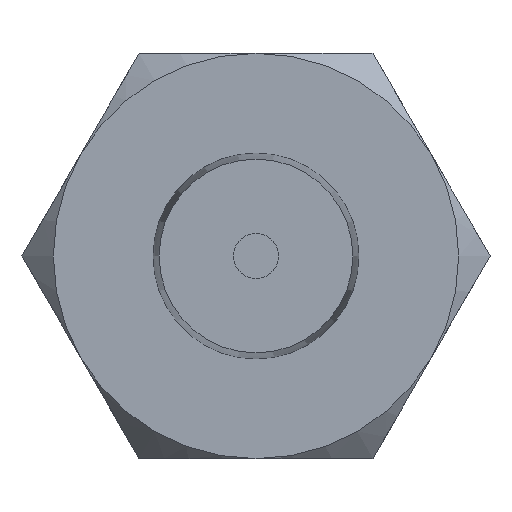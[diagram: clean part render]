
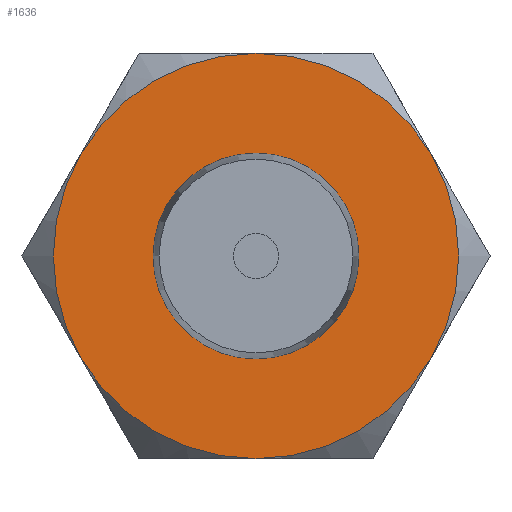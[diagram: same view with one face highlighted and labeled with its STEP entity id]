
A CAD part, front view. The second image highlights one B-rep face of the part: STEP entity #1636.
In plain terms, the highlighted planar face has unit normal (0, -1, 0).
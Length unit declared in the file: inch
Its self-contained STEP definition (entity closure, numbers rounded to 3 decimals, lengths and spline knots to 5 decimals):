
#137=FACE_BOUND('',#401,.T.);
#185=PLANE('',#1844);
#272=FACE_OUTER_BOUND('',#400,.T.);
#400=EDGE_LOOP('',(#1400,#1401,#1402,#1403,#1404,#1405));
#401=EDGE_LOOP('',(#1406));
#516=CIRCLE('',#1845,0.5315);
#517=CIRCLE('',#1846,0.5315);
#518=CIRCLE('',#1847,0.5315);
#519=CIRCLE('',#1848,0.5315);
#520=CIRCLE('',#1849,0.5315);
#521=CIRCLE('',#1850,0.5315);
#522=CIRCLE('',#1851,0.27);
#824=VERTEX_POINT('',#2943);
#828=VERTEX_POINT('',#2961);
#832=VERTEX_POINT('',#2979);
#835=VERTEX_POINT('',#2995);
#836=VERTEX_POINT('',#2997);
#837=VERTEX_POINT('',#2999);
#838=VERTEX_POINT('',#3002);
#1029=EDGE_CURVE('',#832,#828,#516,.T.);
#1030=EDGE_CURVE('',#828,#824,#517,.T.);
#1031=EDGE_CURVE('',#824,#835,#518,.T.);
#1032=EDGE_CURVE('',#835,#836,#519,.T.);
#1033=EDGE_CURVE('',#836,#837,#520,.T.);
#1034=EDGE_CURVE('',#837,#832,#521,.T.);
#1035=EDGE_CURVE('',#838,#838,#522,.T.);
#1400=ORIENTED_EDGE('',*,*,#1029,.T.);
#1401=ORIENTED_EDGE('',*,*,#1030,.T.);
#1402=ORIENTED_EDGE('',*,*,#1031,.T.);
#1403=ORIENTED_EDGE('',*,*,#1032,.T.);
#1404=ORIENTED_EDGE('',*,*,#1033,.T.);
#1405=ORIENTED_EDGE('',*,*,#1034,.T.);
#1406=ORIENTED_EDGE('',*,*,#1035,.T.);
#1636=ADVANCED_FACE('',(#272,#137),#185,.T.);
#1844=AXIS2_PLACEMENT_3D('',#2992,#2274,#2275);
#1845=AXIS2_PLACEMENT_3D('',#2993,#2276,#2277);
#1846=AXIS2_PLACEMENT_3D('',#2994,#2278,#2279);
#1847=AXIS2_PLACEMENT_3D('',#2996,#2280,#2281);
#1848=AXIS2_PLACEMENT_3D('',#2998,#2282,#2283);
#1849=AXIS2_PLACEMENT_3D('',#3000,#2284,#2285);
#1850=AXIS2_PLACEMENT_3D('',#3001,#2286,#2287);
#1851=AXIS2_PLACEMENT_3D('',#3003,#2288,#2289);
#2274=DIRECTION('center_axis',(0.,-1.,0.));
#2275=DIRECTION('ref_axis',(0.,0.,
-1.));
#2276=DIRECTION('center_axis',(0.,-1.,0.));
#2277=DIRECTION('ref_axis',(0.,0.,
-1.));
#2278=DIRECTION('center_axis',(0.,-1.,0.));
#2279=DIRECTION('ref_axis',(0.,0.,
-1.));
#2280=DIRECTION('center_axis',(0.,-1.,0.));
#2281=DIRECTION('ref_axis',(0.,0.,
-1.));
#2282=DIRECTION('center_axis',(0.,-1.,0.));
#2283=DIRECTION('ref_axis',(0.,0.,
-1.));
#2284=DIRECTION('center_axis',(0.,-1.,0.));
#2285=DIRECTION('ref_axis',(0.,0.,
-1.));
#2286=DIRECTION('center_axis',(0.,-1.,0.));
#2287=DIRECTION('ref_axis',(0.,0.,
-1.));
#2288=DIRECTION('center_axis',(0.,1.,0.));
#2289=DIRECTION('ref_axis',(1.,0.,0.));
#2943=CARTESIAN_POINT('',(-0.65956,-1.31958,0.26575));
#2961=CARTESIAN_POINT('',(-0.19927,-1.31958,0.5315));
#2979=CARTESIAN_POINT('',(0.26102,-1.31958,0.26575));
#2992=CARTESIAN_POINT('Origin',(-0.19927,-1.31958,0.));
#2993=CARTESIAN_POINT('Origin',(-0.19927,-1.31958,0.));
#2994=CARTESIAN_POINT('Origin',(-0.19927,-1.31958,0.));
#2995=CARTESIAN_POINT('',(-0.65956,-1.31958,-0.26575));
#2996=CARTESIAN_POINT('Origin',(-0.19927,-1.31958,0.));
#2997=CARTESIAN_POINT('',(-0.19927,-1.31958,-0.5315));
#2998=CARTESIAN_POINT('Origin',(-0.19927,-1.31958,0.));
#2999=CARTESIAN_POINT('',(0.26102,-1.31958,-0.26575));
#3000=CARTESIAN_POINT('Origin',(-0.19927,-1.31958,0.));
#3001=CARTESIAN_POINT('Origin',(-0.19927,-1.31958,0.));
#3002=CARTESIAN_POINT('',(-0.46927,-1.31958,0.));
#3003=CARTESIAN_POINT('Origin',(-0.19927,-1.31958,0.));
